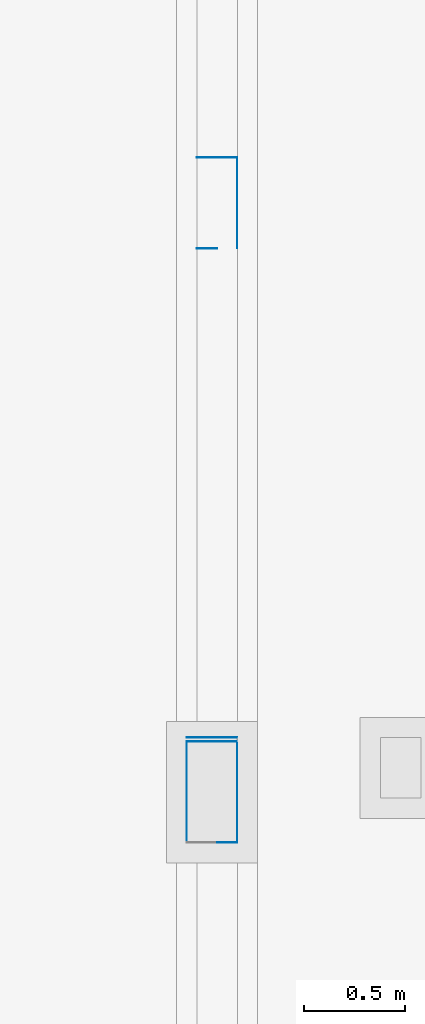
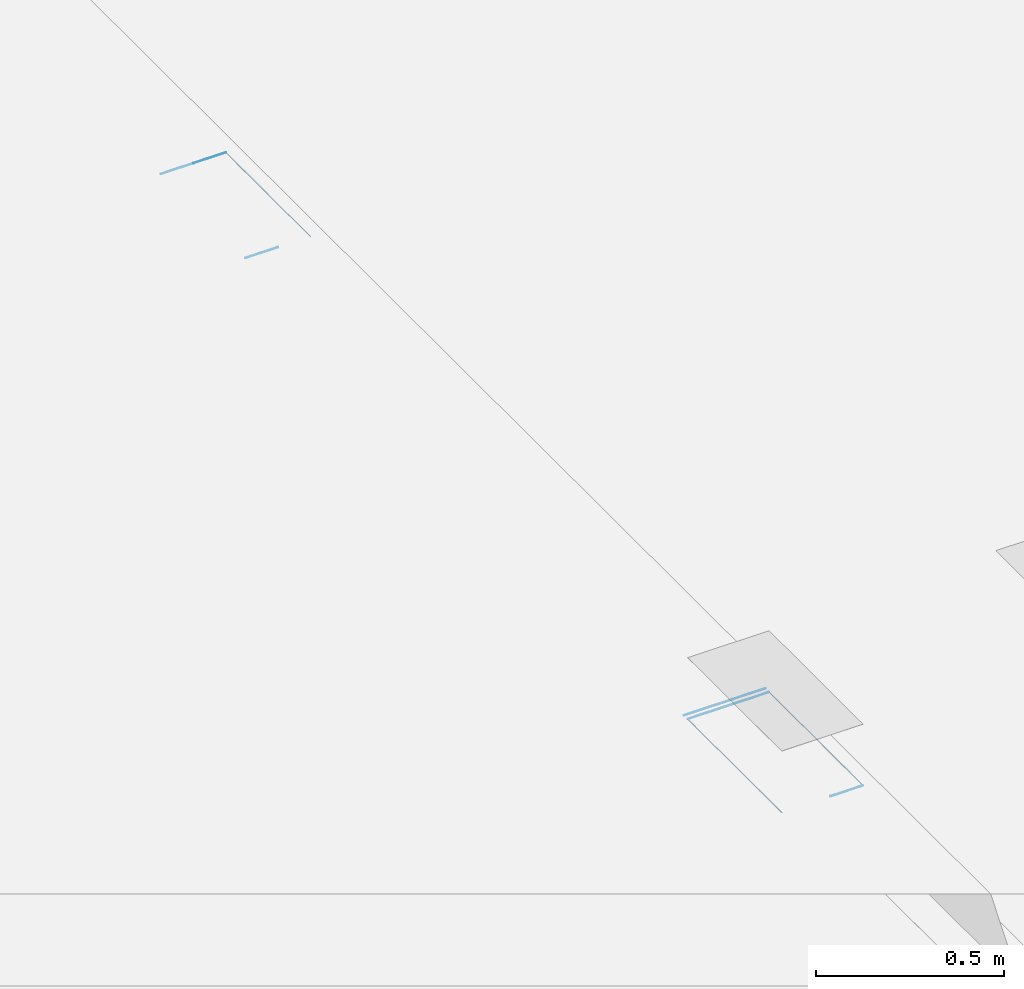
# One storey, part 3 of 6: 12 beams.
"""IFC2X3 building model written with IfcOpenShell, lengths in metres."""

from ifc_helpers import new_model, si_unit, direction, frame, origin_with_axes, place, context, subcontext, project, spatial, polyline, outline, extrude, material, type_object, element, save


model = new_model("IFC2X3")

# Units and contexts
model_context = context("Model", 3, precision=0.0001, world=origin_with_axes(), true_north=direction((0.0, 1.0)))
plan_context = context("Plan", 2, precision=0.0001, world=origin_with_axes(), true_north=direction((0.0, 1.0)))
body_context = subcontext(model_context, "Body", "Model", "MODEL_VIEW")
ifc_project = project(units=[si_unit("MASSUNIT", "GRAM", prefix="KILO"), si_unit("AREAUNIT", "SQUARE_METRE"), si_unit("LENGTHUNIT", "METRE"), si_unit("VOLUMEUNIT", "CUBIC_METRE")], contexts=[plan_context, model_context])

# Site, building, storey
site_placement = place(None, origin_with_axes())
site = spatial("IfcSite", under=ifc_project, at=site_placement, Name="$", CompositionType="ELEMENT")
building_placement = place(site_placement, origin_with_axes())
building = spatial("IfcBuilding", under=site, at=building_placement, Name="Classeur ENS Ensemble", CompositionType="ELEMENT")
storey_placement = place(building_placement, frame((-20.30778888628, -1.812671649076, 0.0), z_axis=(0.0, 0.0, 1.0), x_axis=(1.0, 0.0, 0.0)))
storey = spatial("IfcBuildingStorey", under=building, at=storey_placement, Name="000 Fondations", CompositionType="ELEMENT", Elevation=0.0)

# Beams
ifc_material = material(Name="Default material")
beam_type = type_object("IfcBeamType", PredefinedType="BEAM")
beam_1_placement = place(storey_placement, frame((24.94329531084, -5.787328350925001, -0.3199999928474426), z_axis=(0.0, 0.0, 1.0), x_axis=(1.0, 0.0, 0.0)))
element("IfcBeam", 1, at=beam_1_placement, inside=storey, type_object=beam_type, material=ifc_material, Name="poutre fictive -32", context=body_context, shape_type="SweptSolid", held_by="IfcProductRepresentation", body=[
    extrude(outline(polyline([(0.0, 0.001000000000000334), (0.0, 0.001000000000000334), (0.0, 0.001000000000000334), (0.1000000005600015, 0.001000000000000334), (0.1000000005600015, 0.001000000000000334), (0.1000000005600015, 0.001000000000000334), (0.1000000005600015, -0.0009999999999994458), (0.1000000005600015, -0.0009999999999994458), (0.1000000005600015, -0.0009999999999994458), (0.0, -0.0009999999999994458), (0.0, -0.0009999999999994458), (0.0, -0.0009999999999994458), (0.0, 0.001000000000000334)])), origin_with_axes(), (0.0, 0.0, 1.0), 0.001000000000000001),
])
beam_2_placement = place(storey_placement, frame((24.7932953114, -5.287328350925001, -0.3199999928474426), z_axis=(0.0, 0.0, 1.0), x_axis=(1.0, 0.0, 0.0)))
element("IfcBeam", 2, at=beam_2_placement, inside=storey, type_object=beam_type, material=ifc_material, Name="poutre fictive -32", context=body_context, shape_type="SweptSolid", held_by="IfcProductRepresentation", body=[
    extrude(outline(polyline([(0.0, 0.001000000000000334), (0.0, 0.001000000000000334), (0.0, 0.001000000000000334), (0.1499999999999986, 0.001000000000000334), (0.1499999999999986, 0.001000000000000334), (0.1499999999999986, 0.001000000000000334), (0.1499999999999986, -0.0009999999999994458), (0.1499999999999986, -0.0009999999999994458), (0.1499999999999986, -0.0009999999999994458), (0.0, -0.0009999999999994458), (0.0, -0.0009999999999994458), (0.0, -0.0009999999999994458), (0.0, 0.001000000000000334)])), origin_with_axes(), (0.0, 0.0, 1.0), 0.001000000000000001),
])
beam_3_placement = place(storey_placement, frame((24.8432953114, -2.847471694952, -0.3199999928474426), z_axis=(0.0, 0.0, 1.0), x_axis=(1.0, 0.0, 0.0)))
element("IfcBeam", 3, at=beam_3_placement, inside=storey, type_object=beam_type, material=ifc_material, Name="poutre fictive -32", context=body_context, shape_type="SweptSolid", held_by="IfcProductRepresentation", body=[
    extrude(outline(polyline([(0.0, 0.0009999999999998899), (0.0, 0.0009999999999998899), (0.0, 0.0009999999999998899), (0.09999999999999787, 0.0009999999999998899), (0.09999999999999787, 0.0009999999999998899), (0.09999999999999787, 0.0009999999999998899), (0.09999999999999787, -0.001000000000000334), (0.09999999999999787, -0.001000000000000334), (0.09999999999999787, -0.001000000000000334), (0.0, -0.001000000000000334), (0.0, -0.001000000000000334), (0.0, -0.001000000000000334), (0.0, 0.0009999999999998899)])), origin_with_axes(), (0.0, 0.0, 1.0), 0.001000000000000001),
])
beam_4_placement = place(storey_placement, frame((24.8432953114, -2.397471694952, -0.3199999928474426), z_axis=(0.0, 0.0, 1.0), x_axis=(1.0, 0.0, 0.0)))
element("IfcBeam", 4, at=beam_4_placement, inside=storey, type_object=beam_type, material=ifc_material, Name="poutre fictive -32", context=body_context, shape_type="SweptSolid", held_by="IfcProductRepresentation", body=[
    extrude(outline(polyline([(0.0, 0.0009999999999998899), (0.0, 0.0009999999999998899), (0.0, 0.0009999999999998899), (0.09999999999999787, 0.0009999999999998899), (0.09999999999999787, 0.0009999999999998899), (0.09999999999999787, 0.0009999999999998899), (0.09999999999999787, -0.0009999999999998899), (0.09999999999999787, -0.0009999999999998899), (0.09999999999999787, -0.0009999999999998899), (0.0, -0.0009999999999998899), (0.0, -0.0009999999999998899), (0.0, -0.0009999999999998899), (0.0, 0.0009999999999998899)])), origin_with_axes(), (0.0, 0.0, 1.0), 0.001000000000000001),
])
beam_5_placement = place(storey_placement, frame((24.9432953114, -2.397471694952, -0.3199999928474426), z_axis=(0.0, 0.0, 1.0), x_axis=(1.0, 0.0, 0.0)))
element("IfcBeam", 5, at=beam_5_placement, inside=storey, type_object=beam_type, material=ifc_material, Name="poutre fictive -32", context=body_context, shape_type="SweptSolid", held_by="IfcProductRepresentation", body=[
    extrude(outline(polyline([(0.0, 0.0009999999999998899), (0.0, 0.0009999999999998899), (0.0, 0.0009999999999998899), (0.1000000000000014, 0.0009999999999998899), (0.1000000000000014, 0.0009999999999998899), (0.1000000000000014, 0.0009999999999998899), (0.1000000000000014, -0.0009999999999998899), (0.1000000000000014, -0.0009999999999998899), (0.1000000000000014, -0.0009999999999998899), (0.0, -0.0009999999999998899), (0.0, -0.0009999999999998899), (0.0, -0.0009999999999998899), (0.0, 0.0009999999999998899)])), origin_with_axes(), (0.0, 0.0, 1.0), 0.001000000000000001),
])
beam_6_placement = place(storey_placement, frame((25.0432953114, -2.847471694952, -0.3199999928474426), z_axis=(0.0, 0.0, 1.0), x_axis=(0.0, 1.0, 0.0)))
element("IfcBeam", 6, at=beam_6_placement, inside=storey, type_object=beam_type, material=ifc_material, Name="poutre fictive -32", context=body_context, shape_type="SweptSolid", held_by="IfcProductRepresentation", body=[
    extrude(outline(polyline([(0.0, 0.001000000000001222), (0.0, 0.001000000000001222), (0.0, 0.001000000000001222), (0.4499999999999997, 0.001000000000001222), (0.4499999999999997, 0.001000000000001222), (0.4499999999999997, 0.001000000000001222), (0.4499999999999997, -0.001000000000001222), (0.4499999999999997, -0.001000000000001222), (0.4499999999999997, -0.001000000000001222), (0.0, -0.001000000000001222), (0.0, -0.001000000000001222), (0.0, -0.001000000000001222), (0.0, 0.001000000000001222)])), origin_with_axes(), (0.0, 0.0, 1.0), 0.001000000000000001),
])
beam_7_placement = place(storey_placement, frame((24.9432953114, -2.397471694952, -0.3199999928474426), z_axis=(0.0, 0.0, 1.0), x_axis=(1.0, 0.0, 0.0)))
element("IfcBeam", 7, at=beam_7_placement, inside=storey, type_object=beam_type, material=ifc_material, Name="poutre fictive -32", context=body_context, shape_type="SweptSolid", held_by="IfcProductRepresentation", body=[
    extrude(outline(polyline([(0.0, 0.0009999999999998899), (0.0, 0.0009999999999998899), (0.0, 0.0009999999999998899), (0.1000000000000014, 0.0009999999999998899), (0.1000000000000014, 0.0009999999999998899), (0.1000000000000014, 0.0009999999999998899), (0.1000000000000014, -0.0009999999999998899), (0.1000000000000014, -0.0009999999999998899), (0.1000000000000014, -0.0009999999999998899), (0.0, -0.0009999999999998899), (0.0, -0.0009999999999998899), (0.0, -0.0009999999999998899), (0.0, 0.0009999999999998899)])), origin_with_axes(), (0.0, 0.0, 1.0), 0.001000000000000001),
])
beam_8_placement = place(storey_placement, frame((25.04329531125, -5.787328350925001, -0.3199999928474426), z_axis=(0.0, 0.0, 1.0), x_axis=(0.0, 1.0, 0.0)))
element("IfcBeam", 8, at=beam_8_placement, inside=storey, type_object=beam_type, material=ifc_material, Name="poutre fictive -32", context=body_context, shape_type="SweptSolid", held_by="IfcProductRepresentation", body=[
    extrude(outline(polyline([(0.0, 0.0009999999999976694), (0.0, 0.0009999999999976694), (0.0, 0.0009999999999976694), (0.5, 0.0009999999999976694), (0.5, 0.0009999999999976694), (0.5, 0.0009999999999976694), (0.5, -0.001000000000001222), (0.5, -0.001000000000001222), (0.5, -0.001000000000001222), (0.0, -0.001000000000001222), (0.0, -0.001000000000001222), (0.0, -0.001000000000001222), (0.0, 0.0009999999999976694)])), origin_with_axes(), (0.0, 0.0, 1.0), 0.001000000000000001),
])
beam_9_placement = place(storey_placement, frame((24.7932953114, -5.787328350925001, -0.3199999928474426), z_axis=(0.0, 0.0, 1.0), x_axis=(0.0, 1.0, 0.0)))
element("IfcBeam", 9, at=beam_9_placement, inside=storey, type_object=beam_type, material=ifc_material, Name="poutre fictive -32", context=body_context, shape_type="SweptSolid", held_by="IfcProductRepresentation", body=[
    extrude(outline(polyline([(0.0, 0.001000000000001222), (0.0, 0.001000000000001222), (0.0, 0.001000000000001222), (0.5, 0.001000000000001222), (0.5, 0.001000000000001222), (0.5, 0.001000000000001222), (0.5, -0.001000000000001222), (0.5, -0.001000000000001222), (0.5, -0.001000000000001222), (0.0, -0.001000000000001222), (0.0, -0.001000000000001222), (0.0, -0.001000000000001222), (0.0, 0.001000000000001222)])), origin_with_axes(), (0.0, 0.0, 1.0), 0.001000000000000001),
])
beam_10_placement = place(storey_placement, frame((24.7932953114, -5.267471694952, -0.3199999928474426), z_axis=(0.0, 0.0, 1.0), x_axis=(1.0, 0.0, 0.0)))
element("IfcBeam", 10, at=beam_10_placement, inside=storey, type_object=beam_type, material=ifc_material, Name="poutre fictive -32", context=body_context, shape_type="SweptSolid", held_by="IfcProductRepresentation", body=[
    extrude(outline(polyline([(0.0, 0.0009999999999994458), (0.0, 0.0009999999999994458), (0.0, 0.0009999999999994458), (0.1499999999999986, 0.0009999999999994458), (0.1499999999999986, 0.0009999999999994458), (0.1499999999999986, 0.0009999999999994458), (0.1499999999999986, -0.001000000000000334), (0.1499999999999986, -0.001000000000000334), (0.1499999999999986, -0.001000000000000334), (0.0, -0.001000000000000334), (0.0, -0.001000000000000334), (0.0, -0.001000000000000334), (0.0, 0.0009999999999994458)])), origin_with_axes(), (0.0, 0.0, 1.0), 0.001000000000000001),
])
beam_11_placement = place(storey_placement, frame((24.9432953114, -5.287328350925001, -0.3199999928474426), z_axis=(0.0, 0.0, 1.0), x_axis=(1.0, 0.0, 0.0)))
element("IfcBeam", 11, at=beam_11_placement, inside=storey, type_object=beam_type, material=ifc_material, Name="poutre fictive -32", context=body_context, shape_type="SweptSolid", held_by="IfcProductRepresentation", body=[
    extrude(outline(polyline([(0.0, 0.001000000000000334), (0.0, 0.001000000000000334), (0.0, 0.001000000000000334), (0.1000000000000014, 0.001000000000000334), (0.1000000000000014, 0.001000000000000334), (0.1000000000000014, 0.001000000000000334), (0.1000000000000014, -0.0009999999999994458), (0.1000000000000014, -0.0009999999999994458), (0.1000000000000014, -0.0009999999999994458), (0.0, -0.0009999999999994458), (0.0, -0.0009999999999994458), (0.0, -0.0009999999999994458), (0.0, 0.001000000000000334)])), origin_with_axes(), (0.0, 0.0, 1.0), 0.001000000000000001),
])
beam_12_placement = place(storey_placement, frame((24.9432953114, -5.267471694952, -0.3199999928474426), z_axis=(0.0, 0.0, 1.0), x_axis=(1.0, 0.0, 0.0)))
element("IfcBeam", 12, at=beam_12_placement, inside=storey, type_object=beam_type, material=ifc_material, Name="poutre fictive -32", context=body_context, shape_type="SweptSolid", held_by="IfcProductRepresentation", body=[
    extrude(outline(polyline([(0.0, 0.0009999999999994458), (0.0, 0.0009999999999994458), (0.0, 0.0009999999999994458), (0.09999999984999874, 0.0009999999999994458), (0.09999999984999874, 0.0009999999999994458), (0.09999999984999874, 0.0009999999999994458), (0.09999999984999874, -0.001000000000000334), (0.09999999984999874, -0.001000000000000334), (0.09999999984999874, -0.001000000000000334), (0.0, -0.001000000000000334), (0.0, -0.001000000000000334), (0.0, -0.001000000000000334), (0.0, 0.0009999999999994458)])), origin_with_axes(), (0.0, 0.0, 1.0), 0.001000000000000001),
])

save(model, "model.ifc")
